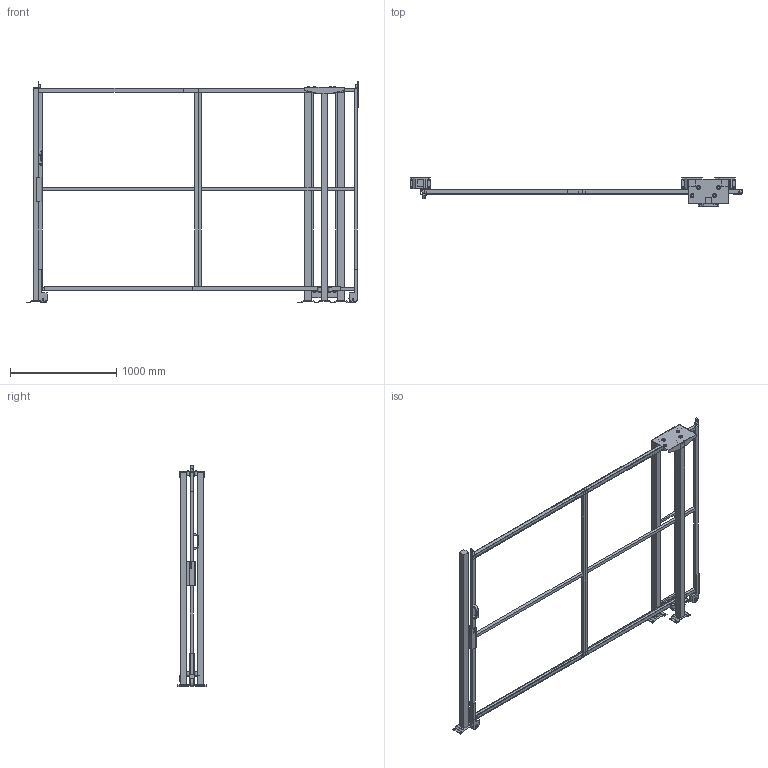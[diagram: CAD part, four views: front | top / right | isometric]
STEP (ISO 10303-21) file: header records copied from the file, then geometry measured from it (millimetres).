
FILE_DESCRIPTION(/* description */ (''),/* implementation_level */ '2;1');
FILE_NAME(/* name */ 'C:\SafeGuarding\ELABORATI\KLADKA_2025-03-19-13-30-46.stp',/* time_stamp */ '2025-03-19T13:30:48+01:00',/* author */ ('admin'),/* organization */ (''),/* preprocessor_version */ 'ST-DEVELOPER v18.1',/* originating_system */ 'AutoCAD Mechanical',/* authorisation */ '');
FILE_SCHEMA (('AUTOMOTIVE_DESIGN { 1 0 10303 214 3 1 1 }'));
Length unit declared in the file: millimetre
Products named in the file (4): Product; R_VFPA.REPE30.15001900; R_VFPA.REPE20.02501900; P_VFMA.V260SDU.2020
Assembly tree (7 placements, depth 2):
  Product
    R_VFPA.REPE30.15001900  x2
    R_VFPA.REPE20.02501900
    P_VFMA.V260SDU.2020  x4
Bounding box: 3126.02 x 264.1 x 2090.02 mm (x, y, z)
Volume: 48820054.2 mm3; surface area: 6640003.9 mm2
Topology: 61 solids, 72 shells, 555 faces, 1743 edges, 1788 vertices
Faces by surface type: plane 503, cylinder 50, sphere 2
Full cylindrical faces by diameter (mm): 9 x4, 11 x16, 13 x4, 30 x6, 36 x8, 80 x2
Entity records: 14773 total; most frequent: CARTESIAN_POINT 3114, DIRECTION 2252, ORIENTED_EDGE 2082, EDGE_CURVE 1090, LINE 1072, VECTOR 1072, VERTEX_POINT 766, AXIS2_PLACEMENT_3D 590
